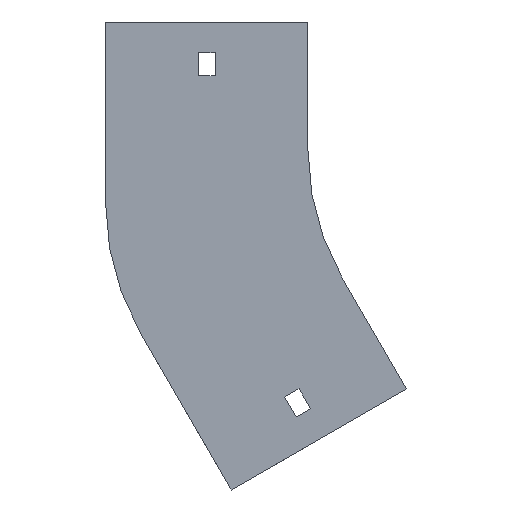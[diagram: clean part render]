
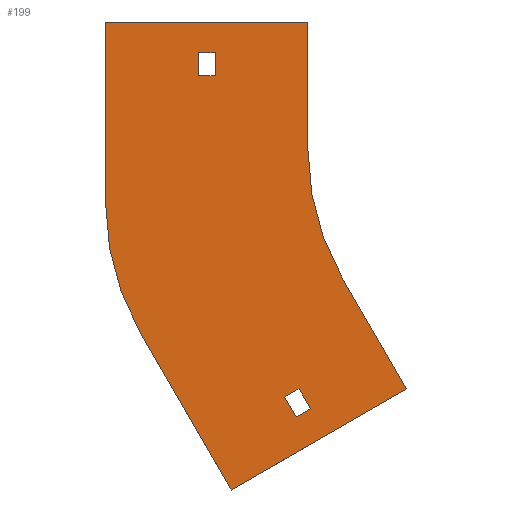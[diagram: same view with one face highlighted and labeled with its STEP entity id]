
A CAD part, front view. The second image highlights one B-rep face of the part: STEP entity #199.
In plain terms, the highlighted planar face has unit normal (0, -1, 0).
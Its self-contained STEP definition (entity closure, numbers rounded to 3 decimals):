
#39 = DIRECTION ( 'NONE',  ( 1., 0., 0. ) ) ;
#42 = DIRECTION ( 'NONE',  ( 0., 0., 1. ) ) ;
#49 = DIRECTION ( 'NONE',  ( 0.5, 0., -0.866 ) ) ;
#56 = CIRCLE ( 'NONE', #208, 100. ) ;
#65 = CARTESIAN_POINT ( 'NONE',  ( -109.125, 0., -96.49 ) ) ;
#86 = DIRECTION ( 'NONE',  ( 0., 0., -1. ) ) ;
#126 = DIRECTION ( 'NONE',  ( 0., 1., 0. ) ) ;
#128 = EDGE_CURVE ( 'NONE', #867, #490, #631, .T. ) ;
#129 = VECTOR ( 'NONE', #1060, 1000. ) ;
#131 = ORIENTED_EDGE ( 'NONE', *, *, #1262, .T. ) ;
#132 = ORIENTED_EDGE ( 'NONE', *, *, #807, .F. ) ;
#133 = LINE ( 'NONE', #1274, #129 ) ;
#136 = VERTEX_POINT ( 'NONE', #529 ) ;
#143 = VECTOR ( 'NONE', #1122, 1000. ) ;
#176 = CARTESIAN_POINT ( 'NONE',  ( -136.25, 0., 29. ) ) ;
#178 = VECTOR ( 'NONE', #42, 1000. ) ;
#199 = ADVANCED_FACE ( 'NONE', ( #219, #1156, #439 ), #623, .T. ) ;
#208 = AXIS2_PLACEMENT_3D ( 'NONE', #458, #126, #1311 ) ;
#219 = FACE_BOUND ( 'NONE', #526, .T. ) ;
#230 = CARTESIAN_POINT ( 'NONE',  ( -100., 0., 0. ) ) ;
#235 = VECTOR ( 'NONE', #771, 1000. ) ;
#236 = CARTESIAN_POINT ( 'NONE',  ( -109.125, 0., -96.49 ) ) ;
#237 = EDGE_CURVE ( 'NONE', #673, #1289, #365, .T. ) ;
#264 = CARTESIAN_POINT ( 'NONE',  ( -179., 0., -21.168 ) ) ;
#277 = CARTESIAN_POINT ( 'NONE',  ( -103.496, 0., -93.24 ) ) ;
#291 = CARTESIAN_POINT ( 'NONE',  ( -179., 0., -21.168 ) ) ;
#302 = LINE ( 'NONE', #696, #907 ) ;
#323 = CARTESIAN_POINT ( 'NONE',  ( -142.75, 0., 38. ) ) ;
#358 = CARTESIAN_POINT ( 'NONE',  ( -100., 0., 50. ) ) ;
#365 = CIRCLE ( 'NONE', #1134, 100. ) ;
#408 = CARTESIAN_POINT ( 'NONE',  ( -142.75, 0., 29. ) ) ;
#409 = LINE ( 'NONE', #1247, #440 ) ;
#412 = VERTEX_POINT ( 'NONE', #791 ) ;
#415 = LINE ( 'NONE', #323, #781 ) ;
#423 = DIRECTION ( 'NONE',  ( 0., 0., 1. ) ) ;
#437 = VERTEX_POINT ( 'NONE', #880 ) ;
#439 = FACE_BOUND ( 'NONE', #1297, .T. ) ;
#440 = VECTOR ( 'NONE', #1255, 1000. ) ;
#444 = EDGE_CURVE ( 'NONE', #821, #136, #1006, .T. ) ;
#458 = CARTESIAN_POINT ( 'NONE',  ( -79., 0., -21.168 ) ) ;
#471 = LINE ( 'NONE', #358, #235 ) ;
#478 = EDGE_CURVE ( 'NONE', #1141, #821, #56, .T. ) ;
#481 = EDGE_CURVE ( 'NONE', #872, #673, #471, .T. ) ;
#488 = CARTESIAN_POINT ( 'NONE',  ( -86.603, 0., -50. ) ) ;
#490 = VERTEX_POINT ( 'NONE', #1094 ) ;
#502 = CARTESIAN_POINT ( 'NONE',  ( -86.603, 0., -50. ) ) ;
#504 = VERTEX_POINT ( 'NONE', #1103 ) ;
#517 = ORIENTED_EDGE ( 'NONE', *, *, #1269, .T. ) ;
#523 = EDGE_CURVE ( 'NONE', #1353, #1141, #1367, .T. ) ;
#526 = EDGE_LOOP ( 'NONE', ( #517, #131, #1316, #837 ) ) ;
#529 = CARTESIAN_POINT ( 'NONE',  ( -179., 0., 50. ) ) ;
#556 = VECTOR ( 'NONE', #423, 1000. ) ;
#565 = ORIENTED_EDGE ( 'NONE', *, *, #237, .F. ) ;
#584 = DIRECTION ( 'NONE',  ( -0.5, 0., 0.866 ) ) ;
#586 = LINE ( 'NONE', #277, #143 ) ;
#589 = ORIENTED_EDGE ( 'NONE', *, *, #1334, .F. ) ;
#593 = LINE ( 'NONE', #1022, #1219 ) ;
#602 = DIRECTION ( 'NONE',  ( 0., 0., -1. ) ) ;
#604 = CARTESIAN_POINT ( 'NONE',  ( -109.125, 0., -96.49 ) ) ;
#606 = ORIENTED_EDGE ( 'NONE', *, *, #1160, .F. ) ;
#623 = PLANE ( 'NONE',  #780 ) ;
#626 = DIRECTION ( 'NONE',  ( 0.5, 0., -0.866 ) ) ;
#631 = LINE ( 'NONE', #408, #1064 ) ;
#640 = ORIENTED_EDGE ( 'NONE', *, *, #523, .F. ) ;
#647 = VECTOR ( 'NONE', #1032, 1000. ) ;
#661 = EDGE_CURVE ( 'NONE', #1104, #1353, #133, .T. ) ;
#673 = VERTEX_POINT ( 'NONE', #230 ) ;
#696 = CARTESIAN_POINT ( 'NONE',  ( -179., 0., 50. ) ) ;
#709 = CARTESIAN_POINT ( 'NONE',  ( -136.25, 0., 38. ) ) ;
#727 = DIRECTION ( 'NONE',  ( 1., 0., 0. ) ) ;
#740 = DIRECTION ( 'NONE',  ( 0., 0., -1. ) ) ;
#752 = CARTESIAN_POINT ( 'NONE',  ( 0., 0., 0. ) ) ;
#771 = DIRECTION ( 'NONE',  ( 0., 0., -1. ) ) ;
#780 = AXIS2_PLACEMENT_3D ( 'NONE', #752, #1053, #86 ) ;
#781 = VECTOR ( 'NONE', #727, 1000. ) ;
#785 = ORIENTED_EDGE ( 'NONE', *, *, #973, .F. ) ;
#791 = CARTESIAN_POINT ( 'NONE',  ( -104.625, 0., -104.284 ) ) ;
#793 = CARTESIAN_POINT ( 'NONE',  ( -61.603, 0., -93.301 ) ) ;
#807 = EDGE_CURVE ( 'NONE', #437, #885, #586, .T. ) ;
#813 = LINE ( 'NONE', #488, #1071 ) ;
#821 = VERTEX_POINT ( 'NONE', #291 ) ;
#825 = CARTESIAN_POINT ( 'NONE',  ( -130.019, 0., -132.801 ) ) ;
#828 = CARTESIAN_POINT ( 'NONE',  ( -103.496, 0., -93.24 ) ) ;
#837 = ORIENTED_EDGE ( 'NONE', *, *, #128, .T. ) ;
#851 = CARTESIAN_POINT ( 'NONE',  ( 0., 0., 0. ) ) ;
#860 = EDGE_CURVE ( 'NONE', #412, #437, #409, .T. ) ;
#867 = VERTEX_POINT ( 'NONE', #176 ) ;
#872 = VERTEX_POINT ( 'NONE', #1235 ) ;
#880 = CARTESIAN_POINT ( 'NONE',  ( -98.996, 0., -101.034 ) ) ;
#882 = EDGE_CURVE ( 'NONE', #909, #867, #593, .T. ) ;
#885 = VERTEX_POINT ( 'NONE', #828 ) ;
#904 = CARTESIAN_POINT ( 'NONE',  ( -130.019, 0., -132.801 ) ) ;
#907 = VECTOR ( 'NONE', #39, 1000. ) ;
#909 = VERTEX_POINT ( 'NONE', #709 ) ;
#922 = ORIENTED_EDGE ( 'NONE', *, *, #1078, .F. ) ;
#949 = LINE ( 'NONE', #1390, #556 ) ;
#959 = ORIENTED_EDGE ( 'NONE', *, *, #481, .F. ) ;
#973 = EDGE_CURVE ( 'NONE', #1298, #412, #1187, .T. ) ;
#998 = ORIENTED_EDGE ( 'NONE', *, *, #860, .F. ) ;
#1006 = LINE ( 'NONE', #264, #178 ) ;
#1022 = CARTESIAN_POINT ( 'NONE',  ( -136.25, 0., 29. ) ) ;
#1032 = DIRECTION ( 'NONE',  ( -0.866, 0., -0.5 ) ) ;
#1050 = VECTOR ( 'NONE', #584, 1000. ) ;
#1053 = DIRECTION ( 'NONE',  ( 0., -1., 0. ) ) ;
#1060 = DIRECTION ( 'NONE',  ( -0.866, 0., -0.5 ) ) ;
#1061 = DIRECTION ( 'NONE',  ( 0., -1., 0. ) ) ;
#1062 = VECTOR ( 'NONE', #626, 1000. ) ;
#1064 = VECTOR ( 'NONE', #1151, 1000. ) ;
#1071 = VECTOR ( 'NONE', #49, 1000. ) ;
#1078 = EDGE_CURVE ( 'NONE', #136, #872, #302, .T. ) ;
#1090 = EDGE_LOOP ( 'NONE', ( #922, #1258, #1203, #640, #1321, #589, #565, #959 ) ) ;
#1094 = CARTESIAN_POINT ( 'NONE',  ( -142.75, 0., 29. ) ) ;
#1103 = CARTESIAN_POINT ( 'NONE',  ( -142.75, 0., 38. ) ) ;
#1104 = VERTEX_POINT ( 'NONE', #793 ) ;
#1122 = DIRECTION ( 'NONE',  ( -0.5, 0., 0.866 ) ) ;
#1134 = AXIS2_PLACEMENT_3D ( 'NONE', #851, #1061, #740 ) ;
#1138 = LINE ( 'NONE', #604, #647 ) ;
#1141 = VERTEX_POINT ( 'NONE', #1236 ) ;
#1151 = DIRECTION ( 'NONE',  ( -1., 0., 0. ) ) ;
#1156 = FACE_OUTER_BOUND ( 'NONE', #1090, .T. ) ;
#1160 = EDGE_CURVE ( 'NONE', #885, #1298, #1138, .T. ) ;
#1187 = LINE ( 'NONE', #236, #1062 ) ;
#1203 = ORIENTED_EDGE ( 'NONE', *, *, #478, .F. ) ;
#1219 = VECTOR ( 'NONE', #602, 1000. ) ;
#1235 = CARTESIAN_POINT ( 'NONE',  ( -100., 0., 50. ) ) ;
#1236 = CARTESIAN_POINT ( 'NONE',  ( -165.603, 0., -71.168 ) ) ;
#1247 = CARTESIAN_POINT ( 'NONE',  ( -104.625, 0., -104.284 ) ) ;
#1255 = DIRECTION ( 'NONE',  ( 0.866, 0., 0.5 ) ) ;
#1258 = ORIENTED_EDGE ( 'NONE', *, *, #444, .F. ) ;
#1262 = EDGE_CURVE ( 'NONE', #504, #909, #415, .T. ) ;
#1269 = EDGE_CURVE ( 'NONE', #490, #504, #949, .T. ) ;
#1274 = CARTESIAN_POINT ( 'NONE',  ( -61.603, 0., -93.301 ) ) ;
#1289 = VERTEX_POINT ( 'NONE', #502 ) ;
#1297 = EDGE_LOOP ( 'NONE', ( #998, #785, #606, #132 ) ) ;
#1298 = VERTEX_POINT ( 'NONE', #65 ) ;
#1311 = DIRECTION ( 'NONE',  ( 0., 0., 1. ) ) ;
#1316 = ORIENTED_EDGE ( 'NONE', *, *, #882, .T. ) ;
#1321 = ORIENTED_EDGE ( 'NONE', *, *, #661, .F. ) ;
#1334 = EDGE_CURVE ( 'NONE', #1289, #1104, #813, .T. ) ;
#1353 = VERTEX_POINT ( 'NONE', #904 ) ;
#1367 = LINE ( 'NONE', #825, #1050 ) ;
#1390 = CARTESIAN_POINT ( 'NONE',  ( -142.75, 0., 29. ) ) ;
